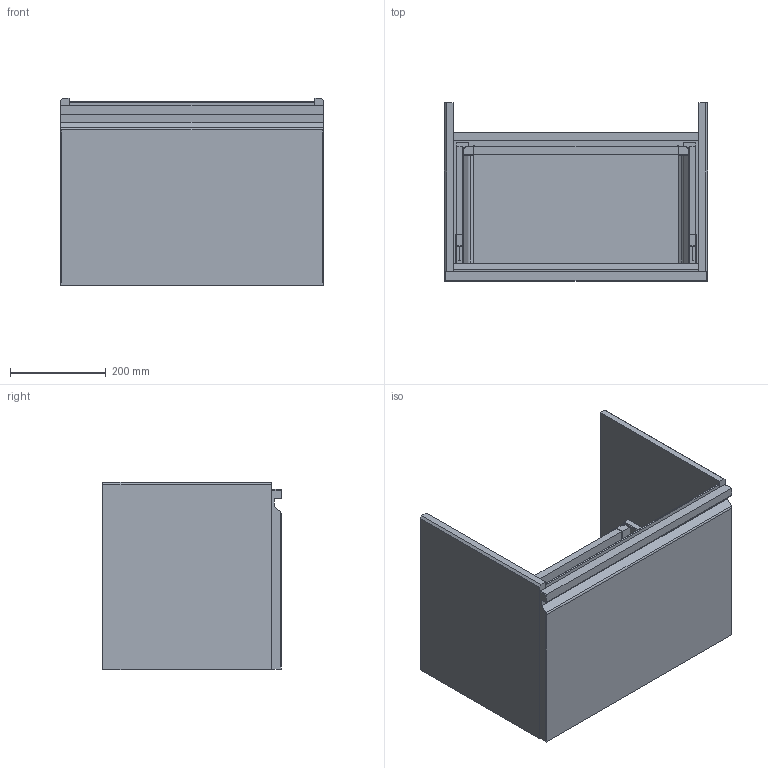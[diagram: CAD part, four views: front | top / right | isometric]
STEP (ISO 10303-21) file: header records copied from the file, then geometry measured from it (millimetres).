
FILE_DESCRIPTION(/* description */ (''),/* implementation_level */ '2;1');
FILE_NAME(/* name */ '3D27CF~1',/* time_stamp */ '2018-05-14T08:51:43+02:00',/* author */ (''),/* organization */ (''),/* preprocessor_version */ 'ST-DEVELOPER v15',/* originating_system */ '',/* authorisation */ '');
FILE_SCHEMA (('AUTOMOTIVE_DESIGN'));
Length unit declared in the file: millimetre
Products named in the file (19): Document; 550 1 CASS_17; 550 1 CASS_16; 550 1 CASS_15; 550 1 CASS_14; 550 1 CASS_13; 550 1 CASS_12; 550 1 CASS_11; 550 1 CASS_10; 550 1 CASS_9; 550 1 CASS_8; 550 1 CASS_7; 550 1 CASS_6; 550 1 CASS_5; 550 1 CASS_4; 550 1 CASS_3; 550 1 CASS_2; 550 1 CASS_1; 550 1 CASS
Assembly tree (18 placements, depth 2):
  Document
    550 1 CASS_17
    550 1 CASS_16
    550 1 CASS_15
    550 1 CASS_14
    550 1 CASS_13
    550 1 CASS_12
    550 1 CASS_11
    550 1 CASS_10
    550 1 CASS_9
    550 1 CASS_8
    550 1 CASS_7
    550 1 CASS_6
    550 1 CASS_5
    550 1 CASS_4
    550 1 CASS_3
    550 1 CASS_2
    550 1 CASS_1
    550 1 CASS
Bounding box: 550.5 x 372 x 392 mm (x, y, z)
Volume: 16069436.2 mm3; surface area: 2190371.9 mm2
Topology: 18 solids, 18 shells, 518 faces, 1408 edges, 952 vertices
Faces by surface type: plane 364, bspline 154
Entity records: 18251 total; most frequent: CARTESIAN_POINT 8511, ORIENTED_EDGE 2816, EDGE_CURVE 1408, B_SPLINE_CURVE_WITH_KNOTS 1054, VERTEX_POINT 952, EDGE_LOOP 580, ADVANCED_FACE 518, FACE_OUTER_BOUND 518
